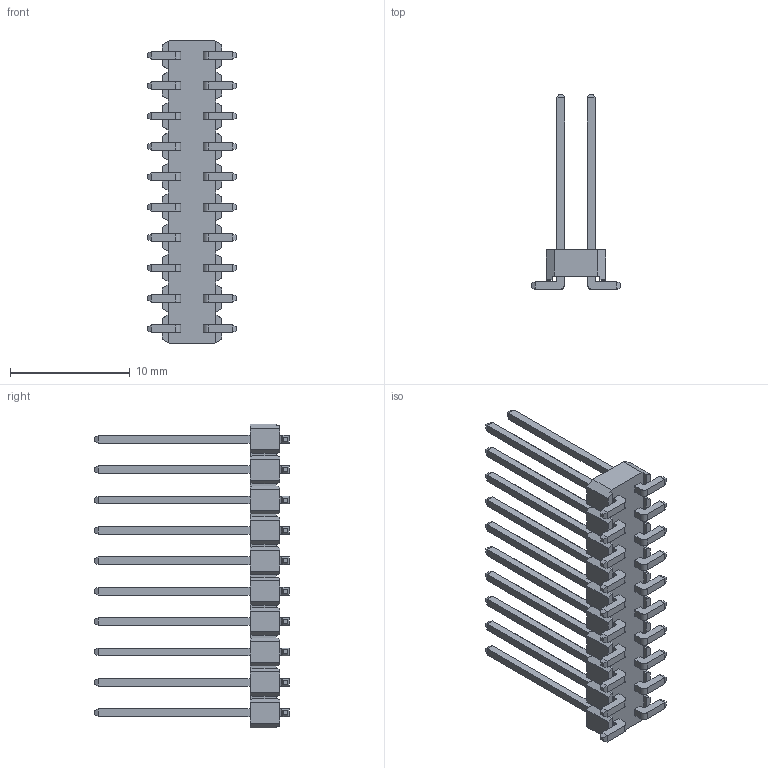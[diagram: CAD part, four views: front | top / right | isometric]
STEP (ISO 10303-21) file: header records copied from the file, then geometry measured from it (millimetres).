
FILE_DESCRIPTION (( 'STEP AP203' ), '1' );
FILE_NAME ('2015-2X10G00D-7.4-13-0.8B-1110907.STEP', '2022-09-07T09:22:13', ( '' ), ( '' ), 'SwSTEP 2.0', 'SolidWorks 2019', '' );
FILE_SCHEMA (( 'CONFIG_CONTROL_DESIGN' ));
Length unit declared in the file: millimetre
Products named in the file (2): 2015-2X10G00D-7.4-13-0.8B-1110907; 2015-2X10G00D-7.4-13-0.8B-1110907-02
Assembly tree (1 placements, depth 2):
  2015-2X10G00D-7.4-13-0.8B-1110907
    2015-2X10G00D-7.4-13-0.8B-1110907-02
Bounding box: 7.4 x 16.3 x 25.4 mm (x, y, z)
Volume: 404.6 mm3; surface area: 1254.2 mm2
Topology: 21 solids, 21 shells, 654 faces, 1580 edges, 988 vertices
Faces by surface type: plane 614, cylinder 40
Entity records: 18632 total; most frequent: CARTESIAN_POINT 3226, ORIENTED_EDGE 3160, DIRECTION 2976, EDGE_CURVE 1580, LINE 1500, VECTOR 1500, VERTEX_POINT 988, AXIS2_PLACEMENT_3D 738
